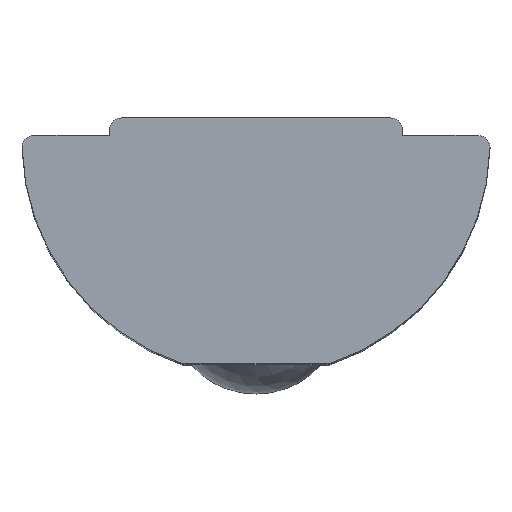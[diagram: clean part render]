
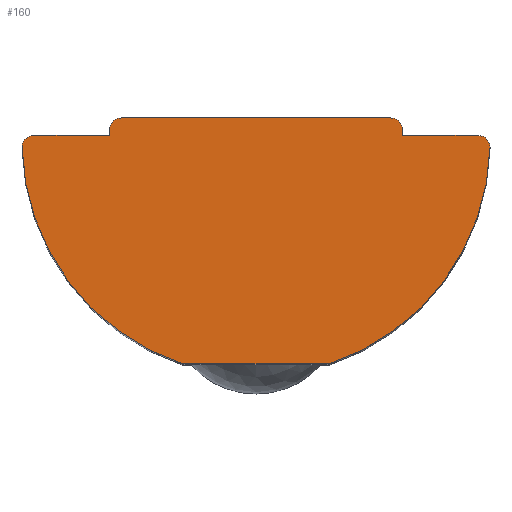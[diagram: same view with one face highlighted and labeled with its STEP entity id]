
A CAD part, top view. The second image highlights one B-rep face of the part: STEP entity #160.
In plain terms, the highlighted planar face has unit normal (0, 0, 1).
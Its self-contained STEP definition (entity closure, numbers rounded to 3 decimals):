
#9 = CARTESIAN_POINT ( 'NONE',  ( 3.999, 3.695, 6.9 ) ) ;
#11 = EDGE_CURVE ( 'NONE', #535, #434, #344, .T. ) ;
#13 = CARTESIAN_POINT ( 'NONE',  ( -3.999, 3.695, 6.9 ) ) ;
#37 = AXIS2_PLACEMENT_3D ( 'NONE', #317, #316, #313 ) ;
#50 = CARTESIAN_POINT ( 'NONE',  ( 0., 3.9, 6.9 ) ) ;
#51 = CARTESIAN_POINT ( 'NONE',  ( 2.5, 0., 6.9 ) ) ;
#64 = DIRECTION ( 'NONE',  ( 1., 0., 0. ) ) ;
#69 = AXIS2_PLACEMENT_3D ( 'NONE', #404, #403, #402 ) ;
#74 = CARTESIAN_POINT ( 'NONE',  ( -1.25, 0., 6.9 ) ) ;
#75 = DIRECTION ( 'NONE',  ( 1., 0., 0. ) ) ;
#87 = DIRECTION ( 'NONE',  ( 0., 1., 0. ) ) ;
#101 = VECTOR ( 'NONE', #354, 1000. ) ;
#112 = VECTOR ( 'NONE', #380, 1000. ) ;
#113 = CIRCLE ( 'NONE', #37, 4. ) ;
#117 = LINE ( 'NONE', #370, #101 ) ;
#120 = LINE ( 'NONE', #379, #112 ) ;
#122 = CIRCLE ( 'NONE', #69, 4. ) ;
#126 = VECTOR ( 'NONE', #449, 1000. ) ;
#127 = LINE ( 'NONE', #438, #126 ) ;
#130 = EDGE_CURVE ( 'NONE', #434, #470, #283, .T. ) ;
#144 = VECTOR ( 'NONE', #467, 1000. ) ;
#145 = LINE ( 'NONE', #528, #144 ) ;
#160 = ADVANCED_FACE ( 'NONE', ( #267 ), #518, .T. ) ;
#161 = EDGE_CURVE ( 'NONE', #542, #384, #259, .T. ) ;
#168 = EDGE_CURVE ( 'NONE', #546, #421, #244, .T. ) ;
#179 = EDGE_CURVE ( 'NONE', #365, #535, #250, .T. ) ;
#182 = EDGE_CURVE ( 'NONE', #470, #396, #243, .T. ) ;
#189 = AXIS2_PLACEMENT_3D ( 'NONE', #521, #474, #64 ) ;
#210 = CIRCLE ( 'NONE', #189, 0.2 ) ;
#243 = CIRCLE ( 'NONE', #251, 0.2 ) ;
#244 = CIRCLE ( 'NONE', #266, 0.2 ) ;
#250 = CIRCLE ( 'NONE', #256, 0.2 ) ;
#251 = AXIS2_PLACEMENT_3D ( 'NONE', #335, #300, #75 ) ;
#256 = AXIS2_PLACEMENT_3D ( 'NONE', #383, #359, #358 ) ;
#259 = CIRCLE ( 'NONE', #307, 0.2 ) ;
#266 = AXIS2_PLACEMENT_3D ( 'NONE', #423, #720, #328 ) ;
#267 = FACE_OUTER_BOUND ( 'NONE', #440, .T. ) ;
#283 = LINE ( 'NONE', #51, #285 ) ;
#285 = VECTOR ( 'NONE', #87, 1000. ) ;
#293 = EDGE_CURVE ( 'NONE', #421, #375, #210, .T. ) ;
#300 = DIRECTION ( 'NONE',  ( 0., 0., 1. ) ) ;
#302 = AXIS2_PLACEMENT_3D ( 'NONE', #628, #516, #435 ) ;
#307 = AXIS2_PLACEMENT_3D ( 'NONE', #472, #424, #364 ) ;
#313 = DIRECTION ( 'NONE',  ( 1., 0., 0. ) ) ;
#316 = DIRECTION ( 'NONE',  ( 0., 0., 1. ) ) ;
#317 = CARTESIAN_POINT ( 'NONE',  ( 0., 3.8, 6.9 ) ) ;
#328 = DIRECTION ( 'NONE',  ( 1., 0., 0. ) ) ;
#335 = CARTESIAN_POINT ( 'NONE',  ( 2.3, 4., 6.9 ) ) ;
#344 = LINE ( 'NONE', #50, #347 ) ;
#347 = VECTOR ( 'NONE', #571, 1000. ) ;
#353 = VERTEX_POINT ( 'NONE', #74 ) ;
#354 = DIRECTION ( 'NONE',  ( -1., 0., 0. ) ) ;
#358 = DIRECTION ( 'NONE',  ( 1., 0., 0. ) ) ;
#359 = DIRECTION ( 'NONE',  ( 0., 0., 1. ) ) ;
#364 = DIRECTION ( 'NONE',  ( 1., 0., 0. ) ) ;
#365 = VERTEX_POINT ( 'NONE', #9 ) ;
#370 = CARTESIAN_POINT ( 'NONE',  ( 0., 4.2, 6.9 ) ) ;
#375 = VERTEX_POINT ( 'NONE', #13 ) ;
#379 = CARTESIAN_POINT ( 'NONE',  ( 0., 0., 6.9 ) ) ;
#380 = DIRECTION ( 'NONE',  ( 1., 0., 0. ) ) ;
#383 = CARTESIAN_POINT ( 'NONE',  ( 3.799, 3.7, 6.9 ) ) ;
#384 = VERTEX_POINT ( 'NONE', #758 ) ;
#396 = VERTEX_POINT ( 'NONE', #756 ) ;
#402 = DIRECTION ( 'NONE',  ( 1., 0., 0. ) ) ;
#403 = DIRECTION ( 'NONE',  ( 0., 0., 1. ) ) ;
#404 = CARTESIAN_POINT ( 'NONE',  ( 0., 3.8, 6.9 ) ) ;
#421 = VERTEX_POINT ( 'NONE', #740 ) ;
#423 = CARTESIAN_POINT ( 'NONE',  ( -3.799, 3.7, 6.9 ) ) ;
#424 = DIRECTION ( 'NONE',  ( 0., 0., 1. ) ) ;
#434 = VERTEX_POINT ( 'NONE', #731 ) ;
#435 = DIRECTION ( 'NONE',  ( 1., 0., 0. ) ) ;
#438 = CARTESIAN_POINT ( 'NONE',  ( 0., 3.9, 6.9 ) ) ;
#440 = EDGE_LOOP ( 'NONE', ( #555, #562, #564, #565, #566, #568, #590, #594, #613, #615, #622, #623, #632 ) ) ;
#449 = DIRECTION ( 'NONE',  ( 1., 0., 0. ) ) ;
#467 = DIRECTION ( 'NONE',  ( 0., 1., 0. ) ) ;
#470 = VERTEX_POINT ( 'NONE', #717 ) ;
#472 = CARTESIAN_POINT ( 'NONE',  ( -2.3, 4., 6.9 ) ) ;
#474 = DIRECTION ( 'NONE',  ( 0., 0., 1. ) ) ;
#489 = CARTESIAN_POINT ( 'NONE',  ( 1.25, 0., 6.9 ) ) ;
#502 = VERTEX_POINT ( 'NONE', #631 ) ;
#516 = DIRECTION ( 'NONE',  ( 0., 0., 1. ) ) ;
#518 = PLANE ( 'NONE',  #302 ) ;
#521 = CARTESIAN_POINT ( 'NONE',  ( -3.799, 3.7, 6.9 ) ) ;
#528 = CARTESIAN_POINT ( 'NONE',  ( -2.5, 0., 6.9 ) ) ;
#535 = VERTEX_POINT ( 'NONE', #625 ) ;
#542 = VERTEX_POINT ( 'NONE', #605 ) ;
#546 = VERTEX_POINT ( 'NONE', #587 ) ;
#555 = ORIENTED_EDGE ( 'NONE', *, *, #739, .T. ) ;
#562 = ORIENTED_EDGE ( 'NONE', *, *, #161, .T. ) ;
#564 = ORIENTED_EDGE ( 'NONE', *, *, #641, .F. ) ;
#565 = ORIENTED_EDGE ( 'NONE', *, *, #684, .F. ) ;
#566 = ORIENTED_EDGE ( 'NONE', *, *, #168, .T. ) ;
#568 = ORIENTED_EDGE ( 'NONE', *, *, #293, .T. ) ;
#571 = DIRECTION ( 'NONE',  ( -1., 0., 0. ) ) ;
#587 = CARTESIAN_POINT ( 'NONE',  ( -3.799, 3.9, 6.9 ) ) ;
#590 = ORIENTED_EDGE ( 'NONE', *, *, #694, .T. ) ;
#594 = ORIENTED_EDGE ( 'NONE', *, *, #732, .T. ) ;
#605 = CARTESIAN_POINT ( 'NONE',  ( -2.3, 4.2, 6.9 ) ) ;
#613 = ORIENTED_EDGE ( 'NONE', *, *, #755, .T. ) ;
#615 = ORIENTED_EDGE ( 'NONE', *, *, #179, .T. ) ;
#622 = ORIENTED_EDGE ( 'NONE', *, *, #11, .T. ) ;
#623 = ORIENTED_EDGE ( 'NONE', *, *, #130, .T. ) ;
#625 = CARTESIAN_POINT ( 'NONE',  ( 3.799, 3.9, 6.9 ) ) ;
#628 = CARTESIAN_POINT ( 'NONE',  ( 0., 0., 6.9 ) ) ;
#631 = CARTESIAN_POINT ( 'NONE',  ( -2.5, 3.9, 6.9 ) ) ;
#632 = ORIENTED_EDGE ( 'NONE', *, *, #182, .T. ) ;
#635 = VERTEX_POINT ( 'NONE', #489 ) ;
#641 = EDGE_CURVE ( 'NONE', #502, #384, #145, .T. ) ;
#684 = EDGE_CURVE ( 'NONE', #546, #502, #127, .T. ) ;
#694 = EDGE_CURVE ( 'NONE', #375, #353, #122, .T. ) ;
#717 = CARTESIAN_POINT ( 'NONE',  ( 2.5, 4., 6.9 ) ) ;
#720 = DIRECTION ( 'NONE',  ( 0., 0., 1. ) ) ;
#731 = CARTESIAN_POINT ( 'NONE',  ( 2.5, 3.9, 6.9 ) ) ;
#732 = EDGE_CURVE ( 'NONE', #353, #635, #120, .T. ) ;
#739 = EDGE_CURVE ( 'NONE', #396, #542, #117, .T. ) ;
#740 = CARTESIAN_POINT ( 'NONE',  ( -3.999, 3.7, 6.9 ) ) ;
#755 = EDGE_CURVE ( 'NONE', #635, #365, #113, .T. ) ;
#756 = CARTESIAN_POINT ( 'NONE',  ( 2.3, 4.2, 6.9 ) ) ;
#758 = CARTESIAN_POINT ( 'NONE',  ( -2.5, 4., 6.9 ) ) ;
